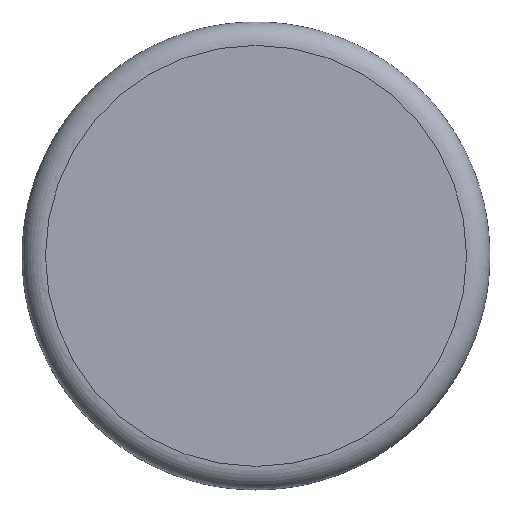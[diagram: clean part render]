
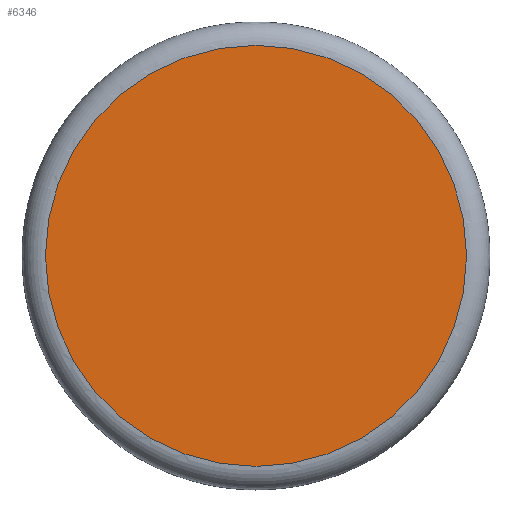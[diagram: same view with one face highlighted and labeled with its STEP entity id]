
A CAD part, top view. The second image highlights one B-rep face of the part: STEP entity #6346.
In plain terms, the highlighted planar face has unit normal (0, 0, 1).
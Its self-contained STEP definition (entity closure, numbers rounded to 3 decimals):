
#155 = TOROIDAL_SURFACE('',#156,9.,1.);
#156 = AXIS2_PLACEMENT_3D('',#157,#158,#159);
#157 = CARTESIAN_POINT('',(47.,10.,86.));
#158 = DIRECTION('',(0.,0.,1.));
#159 = DIRECTION('',(1.,0.,-0.));
#3779 = VERTEX_POINT('',#3780);
#3780 = CARTESIAN_POINT('',(56.,10.,87.));
#3800 = EDGE_CURVE('',#3779,#3779,#3801,.T.);
#3801 = SURFACE_CURVE('',#3802,(#3807,#3814),.PCURVE_S1.);
#3802 = CIRCLE('',#3803,9.);
#3803 = AXIS2_PLACEMENT_3D('',#3804,#3805,#3806);
#3804 = CARTESIAN_POINT('',(47.,10.,87.));
#3805 = DIRECTION('',(0.,0.,1.));
#3806 = DIRECTION('',(1.,0.,-0.));
#3807 = PCURVE('',#155,#3808);
#3808 = DEFINITIONAL_REPRESENTATION('',(#3809),#3813);
#3809 = LINE('',#3810,#3811);
#3810 = CARTESIAN_POINT('',(0.,1.571));
#3811 = VECTOR('',#3812,1.);
#3812 = DIRECTION('',(1.,0.));
#3813 = ( GEOMETRIC_REPRESENTATION_CONTEXT(2) 
PARAMETRIC_REPRESENTATION_CONTEXT() REPRESENTATION_CONTEXT('2D SPACE',''
  ) );
#3814 = PCURVE('',#3815,#3820);
#3815 = PLANE('',#3816);
#3816 = AXIS2_PLACEMENT_3D('',#3817,#3818,#3819);
#3817 = CARTESIAN_POINT('',(47.,10.,87.));
#3818 = DIRECTION('',(0.,0.,1.));
#3819 = DIRECTION('',(1.,0.,-0.));
#3820 = DEFINITIONAL_REPRESENTATION('',(#3821),#3825);
#3821 = CIRCLE('',#3822,9.);
#3822 = AXIS2_PLACEMENT_2D('',#3823,#3824);
#3823 = CARTESIAN_POINT('',(0.,0.));
#3824 = DIRECTION('',(1.,0.));
#3825 = ( GEOMETRIC_REPRESENTATION_CONTEXT(2) 
PARAMETRIC_REPRESENTATION_CONTEXT() REPRESENTATION_CONTEXT('2D SPACE',''
  ) );
#6346 = ADVANCED_FACE('',(#6347),#3815,.T.);
#6347 = FACE_BOUND('',#6348,.T.);
#6348 = EDGE_LOOP('',(#6349));
#6349 = ORIENTED_EDGE('',*,*,#3800,.T.);
